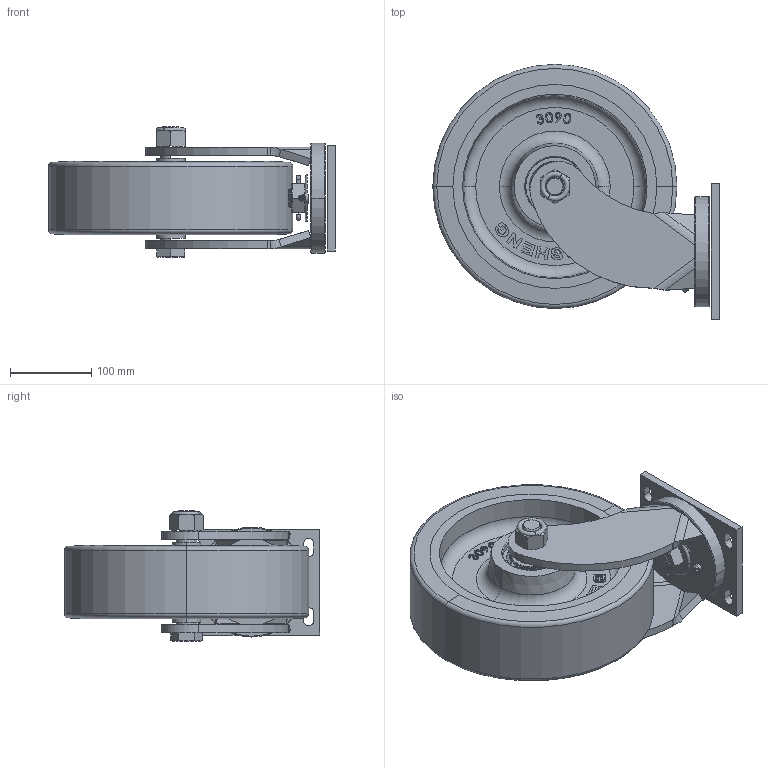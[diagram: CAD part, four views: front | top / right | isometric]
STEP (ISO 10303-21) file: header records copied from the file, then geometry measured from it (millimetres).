
FILE_DESCRIPTION((''),'2;1');
FILE_NAME('PRT0001','2025-07-31T09:24:57',('Administrator'),(''),'CREO PARAMETRIC BY PTC INC, 2022484','CREO PARAMETRIC BY PTC INC, 2022484','');
FILE_SCHEMA(('CONFIG_CONTROL_DESIGN','GEOMETRIC_VALIDATION_PROPERTIES_MIM'));
Length unit declared in the file: millimetre
Products named in the file (1): PRT0001
Bounding box: 352 x 313.5 x 160 mm (x, y, z)
Surface area: 459918.9 mm2 (no closed solid volume)
Topology: 0 solids, 73 shells, 245 faces, 1432 edges, 1257 vertices
Faces by surface type: plane 118, cone 48, cylinder 45, torus 26, bspline 8
Entity records: 18560 total; most frequent: CARTESIAN_POINT 6920, ORIENTED_EDGE 1784, DIRECTION 1624, EDGE_CURVE 1432, VERTEX_POINT 1257, VECTOR 574, LINE 574, B_SPLINE_CURVE_WITH_KNOTS 570
